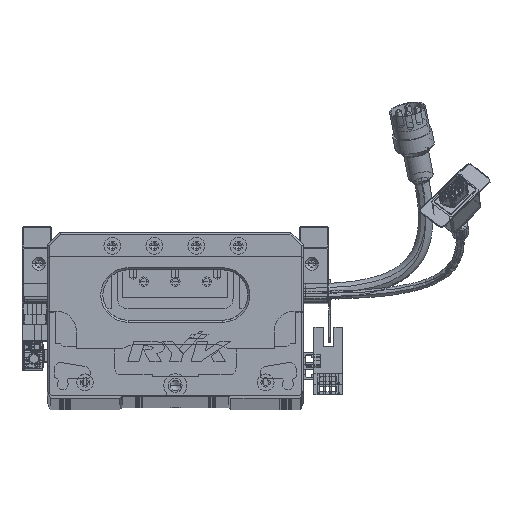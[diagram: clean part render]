
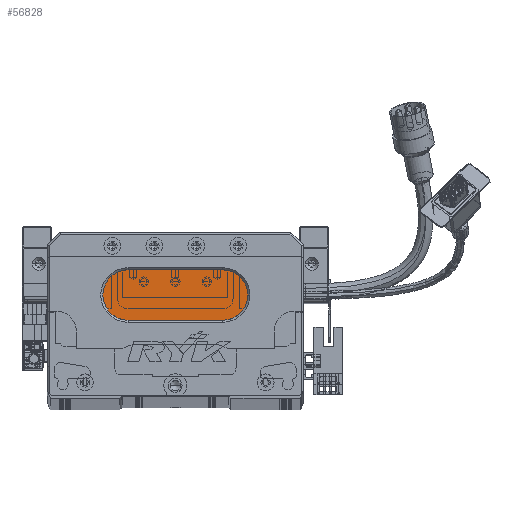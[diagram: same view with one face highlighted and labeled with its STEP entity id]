
A CAD part, top view. The second image highlights one B-rep face of the part: STEP entity #56828.
In plain terms, the highlighted planar face has unit normal (0, 0, 1) as drawn and (0, 0, -1) by its records, which use the part's own axes.
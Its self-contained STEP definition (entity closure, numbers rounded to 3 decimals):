
#5246 = CIRCLE ( 'NONE', #66165, 12. ) ;
#6723 = AXIS2_PLACEMENT_3D ( 'NONE', #94816, #19515, #126844 ) ;
#7015 = EDGE_CURVE ( 'NONE', #77617, #126022, #113623, .T. ) ;
#17912 = DIRECTION ( 'NONE',  ( -1., 0., 0. ) ) ;
#19515 = DIRECTION ( 'NONE',  ( 0., 0., -1. ) ) ;
#23522 = ORIENTED_EDGE ( 'NONE', *, *, #35173, .T. ) ;
#24560 = EDGE_CURVE ( 'NONE', #71809, #117108, #46316, .T. ) ;
#29657 = PLANE ( 'NONE',  #6723 ) ;
#30975 = CARTESIAN_POINT ( 'NONE',  ( 83.5, 48., 13. ) ) ;
#31895 = DIRECTION ( 'NONE',  ( -1., 0., 0. ) ) ;
#32098 = EDGE_CURVE ( 'NONE', #85049, #77617, #5246, .T. ) ;
#34158 = AXIS2_PLACEMENT_3D ( 'NONE', #30975, #50018, #31895 ) ;
#34521 = FACE_OUTER_BOUND ( 'NONE', #55230, .T. ) ;
#35173 = EDGE_CURVE ( 'NONE', #126022, #71809, #136968, .T. ) ;
#46316 = LINE ( 'NONE', #100284, #76030 ) ;
#50018 = DIRECTION ( 'NONE',  ( 0., 0., -1. ) ) ;
#55230 = EDGE_LOOP ( 'NONE', ( #23522, #128154, #121717, #133442, #97291 ) ) ;
#56828 = ADVANCED_FACE ( 'NONE', ( #34521 ), #29657, .T. ) ;
#61172 = CARTESIAN_POINT ( 'NONE',  ( 83.5, 60., 13. ) ) ;
#61334 = CARTESIAN_POINT ( 'NONE',  ( 38.5, 60., 13. ) ) ;
#64064 = CARTESIAN_POINT ( 'NONE',  ( 83.5, 36., 13. ) ) ;
#66165 = AXIS2_PLACEMENT_3D ( 'NONE', #135914, #124391, #94199 ) ;
#68427 = DIRECTION ( 'NONE',  ( -1., 0., 0. ) ) ;
#71809 = VERTEX_POINT ( 'NONE', #64064 ) ;
#76030 = VECTOR ( 'NONE', #68427, 1000. ) ;
#77617 = VERTEX_POINT ( 'NONE', #61334 ) ;
#80000 = CARTESIAN_POINT ( 'NONE',  ( 83.5, 60., 13. ) ) ;
#80480 = AXIS2_PLACEMENT_3D ( 'NONE', #134040, #125224, #17912 ) ;
#81577 = CIRCLE ( 'NONE', #80480, 12. ) ;
#82385 = DIRECTION ( 'NONE',  ( 1., 0., 0. ) ) ;
#85049 = VERTEX_POINT ( 'NONE', #86601 ) ;
#86601 = CARTESIAN_POINT ( 'NONE',  ( 26.5, 48., 13. ) ) ;
#93686 = VECTOR ( 'NONE', #82385, 1000. ) ;
#94199 = DIRECTION ( 'NONE',  ( -1., 0., 0. ) ) ;
#94816 = CARTESIAN_POINT ( 'NONE',  ( 83.5, 48., 13. ) ) ;
#95031 = CARTESIAN_POINT ( 'NONE',  ( 38.5, 36., 13. ) ) ;
#97291 = ORIENTED_EDGE ( 'NONE', *, *, #7015, .T. ) ;
#100284 = CARTESIAN_POINT ( 'NONE',  ( 83.5, 36., 13. ) ) ;
#106011 = EDGE_CURVE ( 'NONE', #117108, #85049, #81577, .T. ) ;
#113623 = LINE ( 'NONE', #61172, #93686 ) ;
#117108 = VERTEX_POINT ( 'NONE', #95031 ) ;
#121717 = ORIENTED_EDGE ( 'NONE', *, *, #106011, .T. ) ;
#124391 = DIRECTION ( 'NONE',  ( 0., 0., -1. ) ) ;
#125224 = DIRECTION ( 'NONE',  ( 0., 0., -1. ) ) ;
#126022 = VERTEX_POINT ( 'NONE', #80000 ) ;
#126844 = DIRECTION ( 'NONE',  ( -1., 0., 0. ) ) ;
#128154 = ORIENTED_EDGE ( 'NONE', *, *, #24560, .T. ) ;
#133442 = ORIENTED_EDGE ( 'NONE', *, *, #32098, .T. ) ;
#134040 = CARTESIAN_POINT ( 'NONE',  ( 38.5, 48., 13. ) ) ;
#135914 = CARTESIAN_POINT ( 'NONE',  ( 38.5, 48., 13. ) ) ;
#136968 = CIRCLE ( 'NONE', #34158, 12. ) ;
